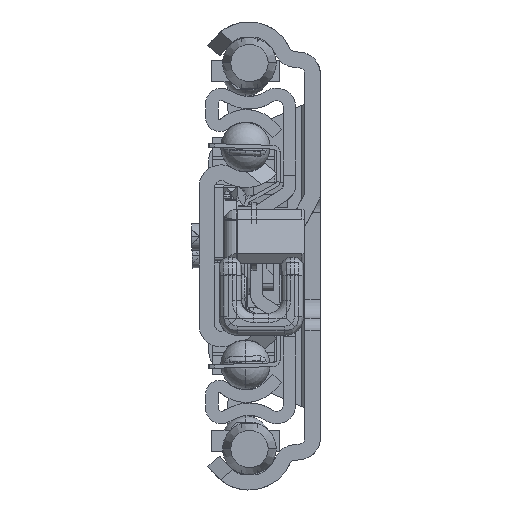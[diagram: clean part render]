
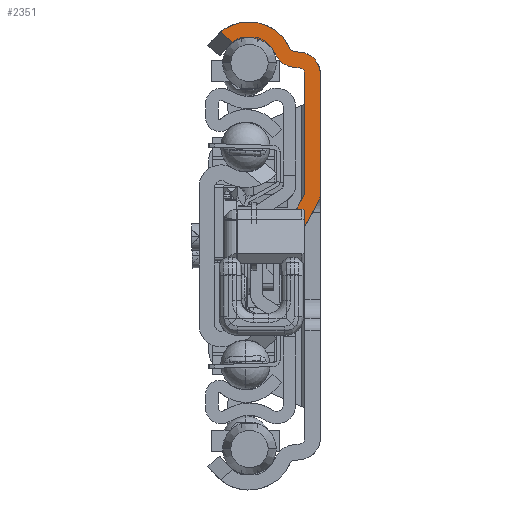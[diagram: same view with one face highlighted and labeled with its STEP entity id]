
A CAD part, left-side view. The second image highlights one B-rep face of the part: STEP entity #2351.
In plain terms, the highlighted planar face has unit normal (-1, 0, 0).
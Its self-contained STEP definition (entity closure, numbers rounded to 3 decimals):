
#1=DIRECTION('',(0.,0.769,0.639));
#2=VECTOR('',#1,2.575);
#3=CARTESIAN_POINT('',(0.,14.098,34.377));
#4=LINE('',#3,#2);
#5=CARTESIAN_POINT('',(0.,16.079,36.021));
#6=CARTESIAN_POINT('',(0.,15.489,36.501));
#7=CARTESIAN_POINT('',(0.,14.228,37.235));
#8=CARTESIAN_POINT('',(0.,12.05,37.743));
#9=CARTESIAN_POINT('',(0.,9.839,37.57));
#10=CARTESIAN_POINT('',(0.,7.778,36.754));
#11=CARTESIAN_POINT('',(0.,6.044,35.337));
#12=CARTESIAN_POINT('',(0.,5.235,34.131));
#13=CARTESIAN_POINT('',(0.,4.911,33.428));
#15=CARTESIAN_POINT('',(0.,4.911,33.428));
#16=CARTESIAN_POINT('',(0.,4.865,33.329));
#17=CARTESIAN_POINT('',(0.,4.73,33.132));
#18=CARTESIAN_POINT('',(0.,4.437,32.93));
#19=CARTESIAN_POINT('',(0.,4.216,32.869));
#20=CARTESIAN_POINT('',(0.,4.095,32.858));
#22=CARTESIAN_POINT('',(0.,3.189,32.779));
#23=CARTESIAN_POINT('',(0.,2.735,32.739));
#24=CARTESIAN_POINT('',(0.,1.895,32.49));
#25=CARTESIAN_POINT('',(0.,0.855,31.706));
#26=CARTESIAN_POINT('',(0.,0.167,30.59));
#27=CARTESIAN_POINT('',(0.,0.,29.749));
#28=CARTESIAN_POINT('',(0.,0.,29.293));
#30=DIRECTION('',(0.,0.,-1.));
#31=VECTOR('',#30,19.351);
#32=CARTESIAN_POINT('',(0.,0.,29.293));
#33=LINE('',#32,#31);
#34=CARTESIAN_POINT('',(0.,2.5,9.942));
#35=DIRECTION('',(1.,0.,0.));
#36=DIRECTION('',(0.,-1.,0.));
#37=AXIS2_PLACEMENT_3D('',#34,#35,#36);
#39=DIRECTION('',(0.,0.477,-0.879));
#40=VECTOR('',#39,6.495);
#41=CARTESIAN_POINT('',(0.,0.302,8.751));
#42=LINE('',#41,#40);
#43=CARTESIAN_POINT('',(0.,0.5,1.099));
#44=DIRECTION('',(1.,0.,0.));
#45=DIRECTION('',(0.,0.946,0.324));
#46=AXIS2_PLACEMENT_3D('',#43,#44,#45);
#48=DIRECTION('',(0.,-0.477,0.879));
#49=VECTOR('',#48,6.873);
#50=CARTESIAN_POINT('',(0.,5.775,3.958));
#51=LINE('',#50,#49);
#52=CARTESIAN_POINT('',(0.,3.5,29.293));
#53=DIRECTION('',(-1.,0.,0.));
#54=DIRECTION('',(0.,-1.,0.));
#55=AXIS2_PLACEMENT_3D('',#52,#53,#54);
#57=CARTESIAN_POINT('',(0.,4.008,33.854));
#58=DIRECTION('',(1.,0.,0.));
#59=DIRECTION('',(0.,0.087,-0.996));
#60=AXIS2_PLACEMENT_3D('',#57,#58,#59);
#62=CARTESIAN_POINT('',(0.,11.5,30.4));
#63=DIRECTION('',(-1.,0.,0.));
#64=DIRECTION('',(0.,-0.908,0.419));
#65=AXIS2_PLACEMENT_3D('',#62,#63,#64);
#103=DIRECTION('',(0.,-0.996,-0.087));
#104=VECTOR('',#103,0.904);
#105=CARTESIAN_POINT('',(0.,4.313,30.368));
#106=LINE('',#105,#104);
#119=DIRECTION('',(0.,0.,-1.));
#120=VECTOR('',#119,19.293);
#121=CARTESIAN_POINT('',(0.,2.5,29.293));
#122=LINE('',#121,#120);
#581=DIRECTION('',(0.,0.996,0.087));
#582=VECTOR('',#581,0.91);
#583=CARTESIAN_POINT('',(0.,3.189,32.779));
#584=LINE('',#583,#582);
#1140=DIRECTION('',(0.,-1.,0.));
#1141=VECTOR('',#1140,2.78);
#1142=CARTESIAN_POINT('',(0.,6.177,3.04));
#1143=LINE('',#1142,#1141);
#1807=CARTESIAN_POINT('',(0.,14.098,
34.377));
#1808=CARTESIAN_POINT('',(0.,16.079,
36.021));
#1809=VERTEX_POINT('',#1807);
#1810=VERTEX_POINT('',#1808);
#1811=VERTEX_POINT('',#13);
#1812=VERTEX_POINT('',#20);
#1813=CARTESIAN_POINT('',(0.,3.189,32.779));
#1814=VERTEX_POINT('',#1813);
#1815=VERTEX_POINT('',#28);
#1816=CARTESIAN_POINT('',(0.,0.,9.942));
#1817=VERTEX_POINT('',#1816);
#1818=CARTESIAN_POINT('',(0.,0.302,8.751));
#1819=VERTEX_POINT('',#1818);
#1820=CARTESIAN_POINT('',(0.,3.397,3.04));
#1821=VERTEX_POINT('',#1820);
#1822=CARTESIAN_POINT('',(0.,6.177,3.04));
#1823=VERTEX_POINT('',#1822);
#1824=CARTESIAN_POINT('',(0.,5.775,3.958));
#1825=VERTEX_POINT('',#1824);
#1826=CARTESIAN_POINT('',(0.,2.5,10.));
#1827=VERTEX_POINT('',#1826);
#1828=CARTESIAN_POINT('',(0.,2.5,29.293));
#1829=VERTEX_POINT('',#1828);
#1830=CARTESIAN_POINT('',(0.,3.413,30.289));
#1831=VERTEX_POINT('',#1830);
#1832=CARTESIAN_POINT('',(0.,4.313,30.368));
#1833=VERTEX_POINT('',#1832);
#1834=CARTESIAN_POINT('',(0.,7.186,32.389));
#1835=VERTEX_POINT('',#1834);
#2312=CARTESIAN_POINT('',(0.,0.,0.));
#2313=DIRECTION('',(1.,0.,0.));
#2314=DIRECTION('',(0.,-1.,0.));
#2315=AXIS2_PLACEMENT_3D('',#2312,#2313,#2314);
#2316=PLANE('',#2315);
#2318=ORIENTED_EDGE('',*,*,#2317,.T.);
#2320=ORIENTED_EDGE('',*,*,#2319,.T.);
#2322=ORIENTED_EDGE('',*,*,#2321,.T.);
#2324=ORIENTED_EDGE('',*,*,#2323,.F.);
#2326=ORIENTED_EDGE('',*,*,#2325,.T.);
#2328=ORIENTED_EDGE('',*,*,#2327,.T.);
#2330=ORIENTED_EDGE('',*,*,#2329,.T.);
#2332=ORIENTED_EDGE('',*,*,#2331,.T.);
#2334=ORIENTED_EDGE('',*,*,#2333,.F.);
#2336=ORIENTED_EDGE('',*,*,#2335,.T.);
#2338=ORIENTED_EDGE('',*,*,#2337,.T.);
#2340=ORIENTED_EDGE('',*,*,#2339,.F.);
#2342=ORIENTED_EDGE('',*,*,#2341,.T.);
#2344=ORIENTED_EDGE('',*,*,#2343,.F.);
#2346=ORIENTED_EDGE('',*,*,#2345,.T.);
#2348=ORIENTED_EDGE('',*,*,#2347,.T.);
#2349=EDGE_LOOP('',(#2318,#2320,#2322,#2324,#2326,#2328,#2330,#2332,#2334,#2336,
#2338,#2340,#2342,#2344,#2346,#2348));
#2350=FACE_OUTER_BOUND('',#2349,.F.);
#14=B_SPLINE_CURVE_WITH_KNOTS('',3,(#5,#6,#7,#8,#9,#10,#11,#12,#13),
.UNSPECIFIED.,.F.,.F.,(4,1,1,1,1,1,4),(0.,0.167,0.333,
0.5,0.667,0.833,1.),.UNSPECIFIED.);
#21=B_SPLINE_CURVE_WITH_KNOTS('',3,(#15,#16,#17,#18,#19,#20),.UNSPECIFIED.,.F.,
.F.,(4,1,1,4),(0.,0.333,0.667,1.),.UNSPECIFIED.);
#29=B_SPLINE_CURVE_WITH_KNOTS('',3,(#22,#23,#24,#25,#26,#27,#28),.UNSPECIFIED.,
.F.,.F.,(4,1,1,1,4),(0.,0.25,0.5,0.75,1.),.UNSPECIFIED.);
#38=CIRCLE('',#37,2.5);
#47=CIRCLE('',#46,6.);
#56=CIRCLE('',#55,1.);
#61=CIRCLE('',#60,3.5);
#66=CIRCLE('',#65,4.75);
#2317=EDGE_CURVE('',#1809,#1810,#4,.T.);
#2319=EDGE_CURVE('',#1810,#1811,#14,.T.);
#2321=EDGE_CURVE('',#1811,#1812,#21,.T.);
#2323=EDGE_CURVE('',#1814,#1812,#584,.T.);
#2325=EDGE_CURVE('',#1814,#1815,#29,.T.);
#2327=EDGE_CURVE('',#1815,#1817,#33,.T.);
#2329=EDGE_CURVE('',#1817,#1819,#38,.T.);
#2331=EDGE_CURVE('',#1819,#1821,#42,.T.);
#2333=EDGE_CURVE('',#1823,#1821,#1143,.T.);
#2335=EDGE_CURVE('',#1823,#1825,#47,.T.);
#2337=EDGE_CURVE('',#1825,#1827,#51,.T.);
#2339=EDGE_CURVE('',#1829,#1827,#122,.T.);
#2341=EDGE_CURVE('',#1829,#1831,#56,.T.);
#2343=EDGE_CURVE('',#1833,#1831,#106,.T.);
#2345=EDGE_CURVE('',#1833,#1835,#61,.T.);
#2347=EDGE_CURVE('',#1835,#1809,#66,.T.);
#2351=ADVANCED_FACE('',(#2350),#2316,.F.);
